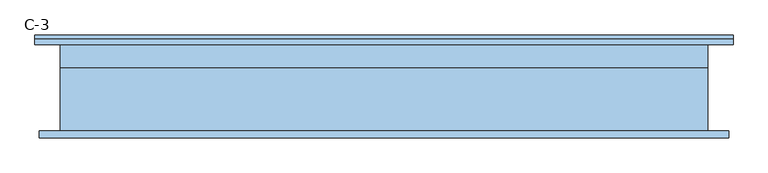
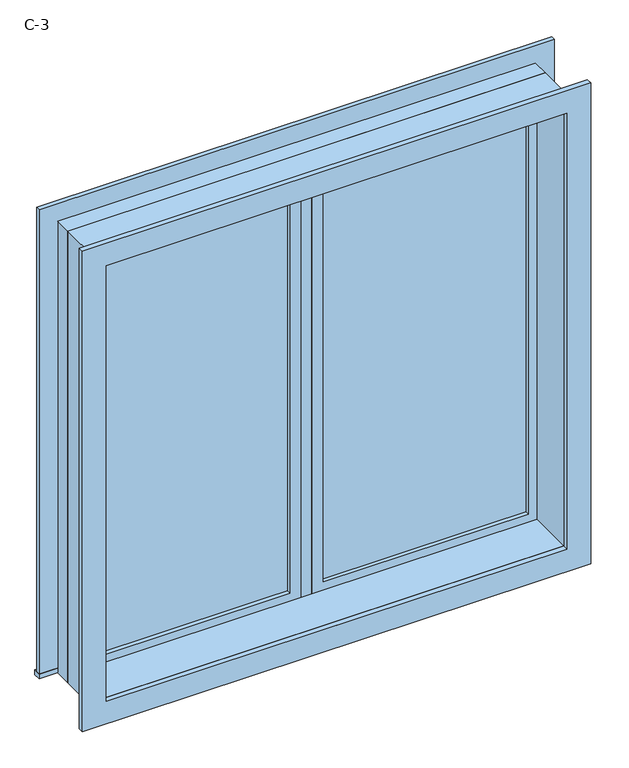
"""IFC4 building model written with IfcOpenShell, lengths in millimetres: window geometry, 双扇平开 - 带贴面 : C-3."""

from ifc_helpers import new_model, si_unit, frame, origin, place, context, project, spatial, polyline, outline, extrude, source, transform, mapped, element, save


def c_3_661ab909(model_context):
    return source(origin(), model_context, "Body", "SweptSolid", [
        extrude(outline(polyline([(63.5, 84.125), (836.5, 84.125), (836.5, 71.425), (63.5, 71.425), (63.5, 84.125)])), frame((0.0, 0.0, 964.5), z_axis=(0.0, 0.0, 1.0), x_axis=(1.0, 0.0, 0.0)), (0.0, 0.0, 1.0), 1673.0),
        extrude(outline(polyline([(2681.95, 19.05), (920.05, 19.05), (920.05, 880.95), (2681.95, 880.95), (2681.95, 19.05)]), holes=[polyline([(2637.5, 63.5), (2637.5, 836.5), (964.5, 836.5), (964.5, 63.5), (2637.5, 63.5)])]), frame((0.0, 55.55, 0.0), z_axis=(0.0, 1.0, 0.0), x_axis=(0.0, 0.0, 1.0)), (0.0, 0.0, 1.0), 44.45),
        extrude(outline(polyline([(19.05, 55.55), (-19.05, 55.55), (-19.05, 119.05), (19.05, 119.05), (19.05, 55.55)])), frame((0.0, 0.0, 920.05), z_axis=(0.0, 0.0, 1.0), x_axis=(1.0, 0.0, 0.0)), (0.0, 0.0, 1.0), 1761.9),
        extrude(outline(polyline([(-63.5, 71.425), (-836.5, 71.425), (-836.5, 84.125), (-63.5, 84.125), (-63.5, 71.425)])), frame((0.0, 0.0, 964.5), z_axis=(0.0, 0.0, 1.0), x_axis=(1.0, 0.0, 0.0)), (0.0, 0.0, 1.0), 1673.0),
        extrude(outline(polyline([(2681.95, -880.95), (920.05, -880.95), (920.05, -19.05), (2681.95, -19.05), (2681.95, -880.95)]), holes=[polyline([(2637.5, -836.5), (2637.5, -63.5), (964.5, -63.5), (964.5, -836.5), (2637.5, -836.5)])]), frame((0.0, 55.55, 0.0), z_axis=(0.0, 1.0, 0.0), x_axis=(0.0, 0.0, 1.0)), (0.0, 0.0, 1.0), 44.45),
        extrude(outline(polyline([(2701.0, -900.0), (901.0, -900.0), (901.0, 900.0), (2701.0, 900.0), (2701.0, -900.0)]), holes=[polyline([(2669.25, -868.25), (2669.25, 868.25), (932.75, 868.25), (932.75, -868.25), (2669.25, -868.25)])]), frame((0.0, -120.0, 0.0), z_axis=(0.0, 1.0, 0.0), x_axis=(0.0, 0.0, 1.0)), (0.0, 0.0, 1.0), 175.55),
        extrude(outline(polyline([(2701.0, 900.0), (2701.0, -900.0), (901.0, -900.0), (901.0, 900.0), (2701.0, 900.0)]), holes=[polyline([(2681.95, 880.95), (920.05, 880.95), (920.05, -880.95), (2681.95, -880.95), (2681.95, 880.95)])]), frame((0.0, 55.55, 0.0), z_axis=(0.0, 1.0, 0.0), x_axis=(0.0, 0.0, 1.0)), (0.0, 0.0, 1.0), 64.45),
        extrude(outline(polyline([(-970.95, 147.7), (970.95, 147.7), (970.95, 120.0), (-970.95, 120.0), (-970.95, 147.7)])), frame((0.0, 0.0, 901.0), z_axis=(0.0, 0.0, 1.0), x_axis=(1.0, 0.0, 0.0)), (0.0, 0.0, 1.0), 19.05),
        extrude(outline(polyline([(2681.95, -880.95), (2681.95, 880.95), (920.05, 880.95), (920.05, 970.95), (2771.95, 970.95), (2771.95, -970.95), (920.05, -970.95), (920.05, -880.95), (2681.95, -880.95)])), frame((0.0, 120.0, 0.0), z_axis=(0.0, 1.0, 0.0), x_axis=(0.0, 0.0, 1.0)), (0.0, 0.0, 1.0), 15.0),
        extrude(outline(polyline([(2759.25, 958.25), (2759.25, -958.25), (842.75, -958.25), (842.75, 958.25), (2759.25, 958.25)]), holes=[polyline([(2669.25, 868.25), (932.75, 868.25), (932.75, -868.25), (2669.25, -868.25), (2669.25, 868.25)])]), frame((0.0, -140.0, 0.0), z_axis=(0.0, 1.0, 0.0), x_axis=(0.0, 0.0, 1.0)), (0.0, 0.0, 1.0), 20.0),
    ])


if __name__ == "__main__":
    model = new_model("IFC4")
    model_context = context("Model", 3, world=origin())
    ifc_project = project(units=[si_unit("LENGTHUNIT", "METRE", prefix="MILLI")], contexts=[model_context])
    site = spatial("IfcSite", under=ifc_project)
    building = spatial("IfcBuilding", under=site)
    placement = place(None, origin())
    c_3_shape = c_3_661ab909(model_context)
    element("IfcWindow", 1, ObjectType="双扇平开 - 带贴面 : C-3", at=placement, inside=building, context=model_context, shape_type="MappedRepresentation", body=[
        mapped(c_3_shape, transform((0.0, 0.0, 0.0), x_axis=(1.0, 0.0, 0.0), y_axis=(0.0, 1.0, 0.0), z_axis=(0.0, 0.0, 1.0))),
    ])
    save(model, "model.ifc")
